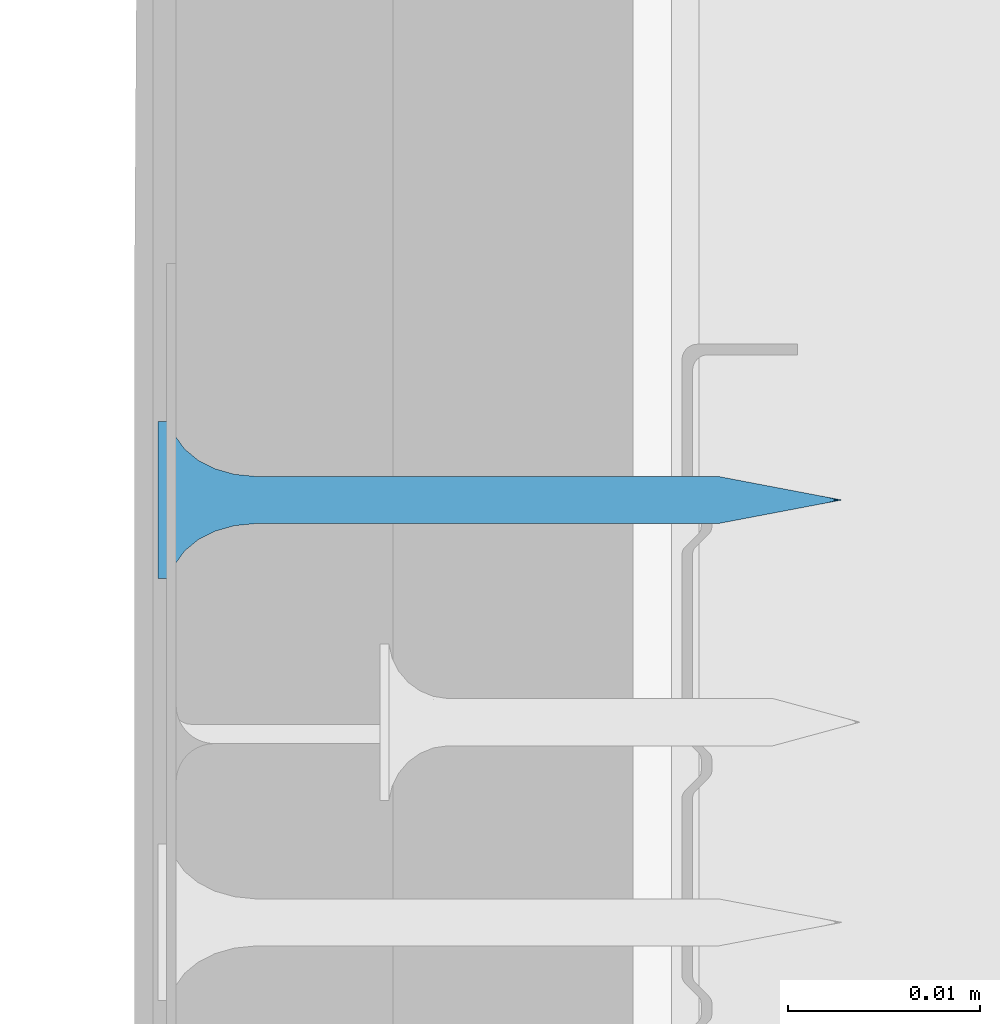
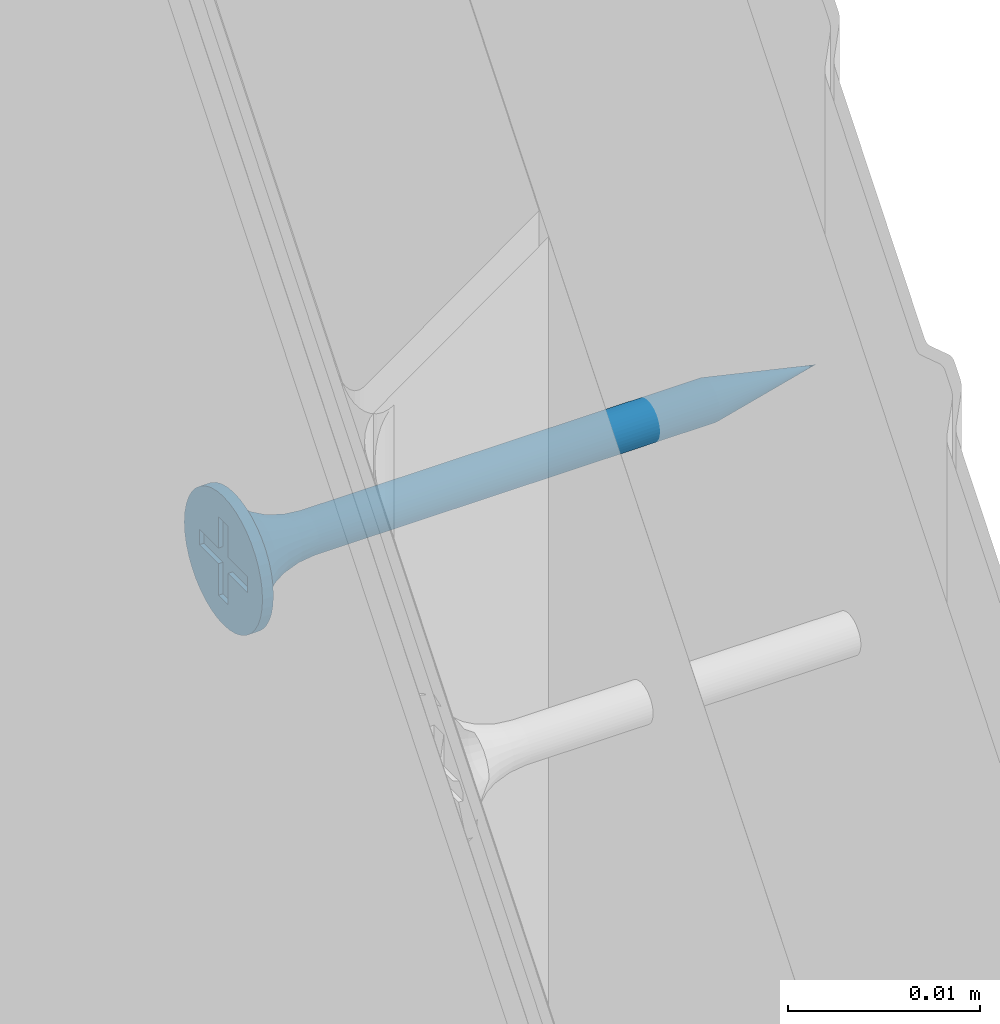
# One storey, part 74 of 92: 1 wall.
"""IFC2X3 building model written with IfcOpenShell, lengths in millimetres."""

from ifc_helpers import new_model, si_unit, frame, origin_with_axes, place, context, subcontext, project, spatial, faceted_brep, material, type_object, element, save


model = new_model("IFC2X3")

# Units and contexts
model_context = context("Model", 3, world=origin_with_axes())
body_context = subcontext(model_context, "Body", "Model", "MODEL_VIEW")
ifc_project = project(units=[si_unit("LENGTHUNIT", "METRE", prefix="MILLI"), si_unit("AREAUNIT", "SQUARE_METRE"), si_unit("VOLUMEUNIT", "CUBIC_METRE")], contexts=[model_context])

# Site, building, storey
site_placement = place(None, origin_with_axes())
site = spatial("IfcSite", under=ifc_project, at=site_placement, Name="Default Site", CompositionType="ELEMENT")
building_placement = place(site_placement, origin_with_axes())
building = spatial("IfcBuilding", under=site, at=building_placement, Name="Default Building", CompositionType="ELEMENT")
storey_placement = place(building_placement, origin_with_axes())
storey = spatial("IfcBuildingStorey", under=building, at=storey_placement, Name="Default Building Storey", CompositionType="ELEMENT", Elevation=0.0)

# Wall
ifc_material = material(Name="Undefined2")
wall_type = type_object("IfcWallType", Name="Wkręt RIGIPS TN 35#35", PredefinedType="NOTDEFINED")
wall_placement = place(storey_placement, frame((4833.513128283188, 1215.4430310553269, 636.1937980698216), z_axis=(0.0, 0.0, 1.0), x_axis=(6.938893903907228e-17, -1.0, 0.0)))
element("IfcWall", 1, at=wall_placement, inside=storey, type_object=wall_type, material=ifc_material, Name="Wkręt RIGIPS TN 35", context=body_context, shape_type="Brep", body=[
    faceted_brep([(-141.48753293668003, -4832.598052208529, 555.1619773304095), (-141.48753293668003, -4833.259714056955, 555.1619773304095), (-141.5377465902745, -4833.259714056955, 555.8000000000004), (-141.5377465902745, -4832.598052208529, 555.8000000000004), (-141.33812900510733, -4832.598052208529, 554.539664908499), (-141.33812900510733, -4833.259714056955, 554.539664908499), (-141.09321328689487, -4832.598052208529, 553.9483861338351), (-141.09321328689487, -4833.259714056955, 553.9483861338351), (-140.75881656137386, -4832.598052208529, 553.4027002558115), (-140.75881656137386, -4833.259714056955, 553.4027002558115), (-140.34317265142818, -4833.259714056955, 552.9160436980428), (-140.45417279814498, -4832.598052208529, 553.0314906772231), (-139.8565160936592, -4833.259714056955, 552.5003997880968), (-140.1080097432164, -4832.598052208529, 552.6986613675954), (-139.72512626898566, -4832.598052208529, 552.4088260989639), (-139.31083021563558, -4833.259714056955, 552.1660030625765), (-139.31083021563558, -4832.598052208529, 552.1660030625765), (-138.71955144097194, -4833.259714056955, 551.9210873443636), (-138.87086516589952, -4832.598052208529, 551.9735585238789), (-138.41133029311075, -4832.598052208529, 551.8341602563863), (-138.0972390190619, -4833.259714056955, 551.7716834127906), (-137.9385961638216, -4832.598052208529, 551.74974052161), (-137.45921634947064, -4833.259714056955, 551.7214697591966), (-137.45921634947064, -4832.598052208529, 551.7214697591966), (-136.82119367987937, -4832.598052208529, 551.7716834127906), (-136.82119367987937, -4833.259714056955, 551.7716834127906), (-136.19888125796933, -4832.598052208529, 551.9210873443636), (-136.19888125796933, -4833.259714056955, 551.9210873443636), (-135.6076024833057, -4832.598052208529, 552.1660030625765), (-135.6076024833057, -4833.259714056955, 552.1660030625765), (-135.06191660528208, -4832.598052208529, 552.5003997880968), (-135.06191660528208, -4833.259714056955, 552.5003997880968), (-134.57526004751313, -4832.598052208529, 552.9160436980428), (-134.57526004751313, -4833.259714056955, 552.9160436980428), (-134.1596161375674, -4832.598052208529, 553.4027002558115), (-134.1596161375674, -4833.259714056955, 553.4027002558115), (-133.8252194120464, -4832.598052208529, 553.9483861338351), (-133.8252194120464, -4833.259714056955, 553.9483861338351), (-133.58030369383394, -4832.598052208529, 554.539664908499), (-133.58030369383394, -4833.259714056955, 554.539664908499), (-133.3806861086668, -4833.259714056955, 555.8000000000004), (-133.3806861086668, -4832.598052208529, 555.8000000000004), (-133.43089976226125, -4832.598052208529, 556.4380226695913), (-133.43089976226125, -4833.259714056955, 556.4380226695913), (-133.43089976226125, -4833.259714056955, 555.1619773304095), (-133.43089976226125, -4832.598052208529, 555.1619773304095), (-133.58030369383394, -4832.598052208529, 557.0603350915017), (-133.58030369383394, -4833.259714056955, 557.0603350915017), (-133.8252194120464, -4832.598052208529, 557.6516138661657), (-133.8252194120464, -4833.259714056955, 557.6516138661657), (-134.1596161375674, -4832.598052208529, 558.1972997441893), (-134.1596161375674, -4833.259714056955, 558.1972997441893), (-134.57526004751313, -4832.598052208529, 558.6839563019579), (-134.57526004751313, -4833.259714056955, 558.6839563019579), (-135.06191660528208, -4832.598052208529, 559.099600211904), (-135.06191660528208, -4833.259714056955, 559.099600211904), (-135.6076024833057, -4832.598052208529, 559.4339969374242), (-135.6076024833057, -4833.259714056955, 559.4339969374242), (-136.19888125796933, -4832.598052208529, 559.6789126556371), (-136.19888125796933, -4833.259714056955, 559.6789126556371), (-136.82119367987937, -4832.598052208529, 559.8283165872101), (-136.82119367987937, -4833.259714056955, 559.8283165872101), (-137.45921634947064, -4832.598052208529, 559.8785302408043), (-137.45921634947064, -4833.259714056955, 559.8785302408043), (-138.0972390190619, -4832.598052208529, 559.8283165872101), (-138.0972390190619, -4833.259714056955, 559.8283165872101), (-138.71955144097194, -4832.598052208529, 559.6789126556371), (-138.71955144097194, -4833.259714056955, 559.6789126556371), (-139.31083021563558, -4832.598052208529, 559.4339969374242), (-139.31083021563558, -4833.259714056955, 559.4339969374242), (-139.8565160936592, -4832.598052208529, 559.099600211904), (-139.8565160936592, -4833.259714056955, 559.099600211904), (-140.34317265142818, -4832.598052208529, 558.6839563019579), (-140.34317265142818, -4833.259714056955, 558.6839563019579), (-140.75881656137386, -4832.598052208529, 558.1972997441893), (-140.75881656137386, -4833.259714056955, 558.1972997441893), (-141.09321328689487, -4832.598052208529, 557.6516138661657), (-141.09321328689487, -4833.259714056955, 557.6516138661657), (-141.33812900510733, -4832.598052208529, 557.0603350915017), (-141.33812900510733, -4833.259714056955, 557.0603350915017), (-141.48753293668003, -4832.598052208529, 556.4380226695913), (-141.48753293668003, -4833.259714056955, 556.4380226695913), (-137.65172779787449, -4828.206294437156, 554.5845305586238), (-137.45921634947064, -4828.206294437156, 554.5693795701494), (-137.8060615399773, -4829.281368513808, 554.505556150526), (-137.45921634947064, -4829.281368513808, 554.459893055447), (-137.83949898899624, -4828.206294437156, 554.6296104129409), (-138.12926982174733, -4829.281368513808, 554.6394333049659), (-138.01790634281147, -4828.206294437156, 554.7035091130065), (-138.1825568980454, -4828.206294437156, 554.8044072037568), (-138.40681506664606, -4829.281368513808, 554.852401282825), (-138.3293964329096, -4828.206294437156, 554.9298199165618), (-138.45480914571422, -4828.206294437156, 555.0766594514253), (-138.6197830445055, -4829.281368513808, 555.1299465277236), (-138.5557072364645, -4828.206294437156, 555.2413100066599), (-138.753660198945, -4829.281368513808, 555.4531548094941), (-138.62960593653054, -4828.206294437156, 555.4197173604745), (-138.67468579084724, -4828.206294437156, 555.6074885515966), (-138.79932329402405, -4829.281368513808, 555.7999999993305), (-138.68983677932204, -4828.206294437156, 555.8000000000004), (-138.67468579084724, -4828.206294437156, 555.9925114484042), (-138.753660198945, -4829.281368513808, 556.1468451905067), (-138.62960593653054, -4828.206294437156, 556.1802826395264), (-138.6197830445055, -4829.281368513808, 556.4700534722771), (-138.5557072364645, -4828.206294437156, 556.3586899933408), (-138.45480914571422, -4828.206294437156, 556.5233405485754), (-138.40681506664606, -4829.281368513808, 556.7475987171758), (-138.3293964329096, -4828.206294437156, 556.6701800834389), (-138.1825568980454, -4828.206294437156, 556.7955927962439), (-138.12926982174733, -4829.281368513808, 556.9605666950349), (-138.01790634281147, -4828.206294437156, 556.8964908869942), (-137.8060615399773, -4829.281368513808, 557.0944438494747), (-137.83949898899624, -4828.206294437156, 556.9703895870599), (-137.65172779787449, -4828.206294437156, 557.0154694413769), (-137.45921634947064, -4829.281368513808, 557.1401069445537), (-137.45921634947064, -4828.206294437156, 557.0306204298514), (-137.26670490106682, -4828.206294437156, 557.0154694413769), (-137.11237115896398, -4829.281368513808, 557.0944438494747), (-137.07893370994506, -4828.206294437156, 556.9703895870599), (-136.78916287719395, -4829.281368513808, 556.9605666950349), (-136.9005263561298, -4828.206294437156, 556.8964908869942), (-136.7358758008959, -4828.206294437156, 556.7955927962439), (-136.5116176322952, -4829.281368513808, 556.7475987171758), (-136.58903626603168, -4828.206294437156, 556.6701800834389), (-136.46362355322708, -4828.206294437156, 556.5233405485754), (-136.2986496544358, -4829.281368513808, 556.4700534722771), (-136.36272546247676, -4828.206294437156, 556.3586899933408), (-136.16477249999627, -4829.281368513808, 556.1468451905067), (-136.28882676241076, -4828.206294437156, 556.1802826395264), (-136.24374690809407, -4828.206294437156, 555.9925114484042), (-136.11910940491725, -4829.281368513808, 555.7999999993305), (-136.22859591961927, -4828.206294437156, 555.8000000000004), (-136.24374690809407, -4828.206294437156, 555.6074885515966), (-136.16477249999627, -4829.281368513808, 555.4531548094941), (-136.28882676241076, -4828.206294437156, 555.4197173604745), (-136.2986496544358, -4829.281368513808, 555.1299465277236), (-136.36272546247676, -4828.206294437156, 555.2413100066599), (-136.46362355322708, -4828.206294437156, 555.0766594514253), (-136.5116176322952, -4829.281368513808, 554.852401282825), (-136.58903626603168, -4828.206294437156, 554.9298199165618), (-136.7358758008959, -4828.206294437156, 554.8044072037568), (-136.78916287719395, -4829.281368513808, 554.6394333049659), (-136.9005263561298, -4828.206294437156, 554.7035091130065), (-137.11237115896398, -4829.281368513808, 554.505556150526), (-137.07893370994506, -4828.206294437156, 554.6296104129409), (-137.26670490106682, -4828.206294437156, 554.5845305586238), (-137.45921634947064, -4830.288222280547, 554.1737111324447), (-137.88013087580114, -4830.288222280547, 554.2291255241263), (-138.2723607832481, -4830.288222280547, 554.391592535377), (-138.60917621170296, -4830.288222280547, 554.6500401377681), (-138.8676238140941, -4830.288222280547, 554.9868555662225), (-139.03009082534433, -4830.288222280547, 555.3790854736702), (-139.08550521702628, -4830.288222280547, 555.7999999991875), (-139.03009082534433, -4830.288222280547, 556.2209145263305), (-138.8676238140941, -4830.288222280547, 556.6131444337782), (-138.60917621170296, -4830.288222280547, 556.9499598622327), (-138.2723607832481, -4830.288222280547, 557.2084074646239), (-137.88013087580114, -4830.288222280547, 557.3708744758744), (-137.45921634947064, -4830.288222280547, 557.426288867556), (-137.03830182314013, -4830.288222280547, 557.3708744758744), (-136.64607191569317, -4830.288222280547, 557.2084074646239), (-136.30925648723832, -4830.288222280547, 556.9499598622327), (-136.05080888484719, -4830.288222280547, 556.6131444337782), (-135.88834187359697, -4830.288222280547, 556.2209145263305), (-135.832927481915, -4830.288222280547, 555.7999999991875), (-135.88834187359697, -4830.288222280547, 555.3790854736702), (-136.05080888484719, -4830.288222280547, 554.9868555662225), (-136.30925648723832, -4830.288222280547, 554.6500401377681), (-136.64607191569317, -4830.288222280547, 554.391592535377), (-137.03830182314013, -4830.288222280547, 554.2291255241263), (-137.45921634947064, -4831.168773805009, 553.7273430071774), (-137.99565943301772, -4831.168773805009, 553.7979670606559), (-138.49554484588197, -4831.168773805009, 554.0050264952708), (-138.92480608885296, -4831.168773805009, 554.334410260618), (-139.25418985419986, -4831.168773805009, 554.7636715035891), (-139.46124928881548, -4831.168773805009, 555.2635569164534), (-139.53187334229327, -4831.168773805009, 555.799999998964), (-139.46124928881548, -4831.168773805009, 556.3364430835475), (-139.25418985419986, -4831.168773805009, 556.8363284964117), (-138.92480608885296, -4831.168773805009, 557.2655897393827), (-138.49554484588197, -4831.168773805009, 557.59497350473), (-137.99565943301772, -4831.168773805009, 557.8020329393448), (-137.45921634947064, -4831.168773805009, 557.8726569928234), (-136.92277326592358, -4831.168773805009, 557.8020329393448), (-136.42288785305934, -4831.168773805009, 557.59497350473), (-135.9936266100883, -4831.168773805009, 557.2655897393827), (-135.6642428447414, -4831.168773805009, 556.8363284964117), (-135.45718341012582, -4831.168773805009, 556.3364430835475), (-135.386559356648, -4831.168773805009, 555.799999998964), (-135.45718341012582, -4831.168773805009, 555.2635569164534), (-135.6642428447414, -4831.168773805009, 554.7636715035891), (-135.9936266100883, -4831.168773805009, 554.334410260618), (-136.42288785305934, -4831.168773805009, 554.0050264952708), (-136.92277326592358, -4831.168773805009, 553.7979670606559), (-137.45921634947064, -4831.872222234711, 553.1465392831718), (-138.14598252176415, -4831.872222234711, 553.2369539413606), (-138.78594670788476, -4831.872222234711, 553.5020355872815), (-139.33549641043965, -4831.872222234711, 553.923719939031), (-139.75718076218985, -4831.872222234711, 554.473269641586), (-140.02226240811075, -4831.872222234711, 555.1132338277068), (-140.11267706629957, -4831.872222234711, 555.7999999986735), (-140.02226240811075, -4831.872222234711, 556.4867661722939), (-139.75718076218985, -4831.872222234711, 557.1267303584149), (-139.33549641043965, -4831.872222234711, 557.6762800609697), (-138.78594670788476, -4831.872222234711, 558.0979644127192), (-138.14598252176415, -4831.872222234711, 558.3630460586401), (-137.45921634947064, -4831.872222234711, 558.453460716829), (-136.77245017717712, -4831.872222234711, 558.3630460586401), (-136.13248599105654, -4831.872222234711, 558.0979644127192), (-135.58293628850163, -4831.872222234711, 557.6762800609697), (-135.16125193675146, -4831.872222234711, 557.1267303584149), (-134.89617029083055, -4831.872222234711, 556.4867661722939), (-134.8057556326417, -4831.872222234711, 555.7999999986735), (-134.89617029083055, -4831.872222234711, 555.1132338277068), (-135.16125193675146, -4831.872222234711, 554.473269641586), (-135.58293628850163, -4831.872222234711, 553.923719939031), (-136.13248599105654, -4831.872222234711, 553.5020355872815), (-136.77245017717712, -4831.872222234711, 553.2369539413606), (-137.45921634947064, -4832.357990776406, 552.4648055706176), (-138.3224281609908, -4832.357990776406, 552.5784495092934), (-139.12681356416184, -4832.357990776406, 552.9116369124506), (-139.8175549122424, -4832.357990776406, 553.4416614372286), (-140.34757943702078, -4832.357990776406, 554.1324027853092), (-140.680766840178, -4832.357990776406, 554.9367881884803), (-140.79441077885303, -4832.357990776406, 555.7999999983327), (-140.680766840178, -4832.357990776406, 556.6632118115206), (-140.34757943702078, -4832.357990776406, 557.4675972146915), (-139.8175549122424, -4832.357990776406, 558.1583385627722), (-139.12681356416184, -4832.357990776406, 558.6883630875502), (-138.3224281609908, -4832.357990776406, 559.0215504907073), (-137.45921634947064, -4832.357990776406, 559.1351944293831), (-136.5960045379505, -4832.357990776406, 559.0215504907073), (-135.79161913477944, -4832.357990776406, 558.6883630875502), (-135.10087778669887, -4832.357990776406, 558.1583385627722), (-134.5708532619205, -4832.357990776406, 557.4675972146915), (-134.23766585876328, -4832.357990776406, 556.6632118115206), (-134.12402192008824, -4832.357990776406, 555.7999999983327), (-134.23766585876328, -4832.357990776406, 554.9367881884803), (-134.5708532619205, -4832.357990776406, 554.1324027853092), (-135.10087778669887, -4832.357990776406, 553.4416614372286), (-135.79161913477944, -4832.357990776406, 552.9116369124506), (-136.5960045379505, -4832.357990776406, 552.5784495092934), (-138.67468579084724, -4804.0937578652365, 555.6074885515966), (-138.68983677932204, -4804.0937578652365, 555.8000000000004), (-138.62960593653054, -4804.0937578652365, 555.4197173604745), (-138.5557072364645, -4804.0937578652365, 555.2413100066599), (-138.45480914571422, -4804.0937578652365, 555.0766594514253), (-138.3293964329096, -4804.0937578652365, 554.9298199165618), (-138.1825568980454, -4804.0937578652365, 554.8044072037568), (-138.01790634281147, -4804.0937578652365, 554.7035091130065), (-137.83949898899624, -4804.0937578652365, 554.6296104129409), (-137.65172779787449, -4804.0937578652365, 554.5845305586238), (-137.45921634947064, -4804.0937578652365, 554.5693795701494), (-137.26670490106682, -4804.0937578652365, 554.5845305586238), (-137.07893370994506, -4804.0937578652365, 554.6296104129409), (-136.9005263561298, -4804.0937578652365, 554.7035091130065), (-136.7358758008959, -4804.0937578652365, 554.8044072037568), (-136.58903626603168, -4804.0937578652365, 554.9298199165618), (-136.46362355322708, -4804.0937578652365, 555.0766594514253), (-136.36272546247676, -4804.0937578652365, 555.2413100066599), (-136.28882676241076, -4804.0937578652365, 555.4197173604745), (-136.22859591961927, -4804.0937578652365, 555.8000000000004), (-136.24374690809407, -4804.0937578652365, 555.9925114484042), (-136.24374690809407, -4804.0937578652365, 555.6074885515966), (-136.28882676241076, -4804.0937578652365, 556.1802826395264), (-136.36272546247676, -4804.0937578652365, 556.3586899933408), (-136.46362355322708, -4804.0937578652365, 556.5233405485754), (-136.58903626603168, -4804.0937578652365, 556.6701800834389), (-136.7358758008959, -4804.0937578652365, 556.7955927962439), (-136.9005263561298, -4804.0937578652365, 556.8964908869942), (-137.07893370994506, -4804.0937578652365, 556.9703895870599), (-137.26670490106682, -4804.0937578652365, 557.0154694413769), (-137.45921634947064, -4804.0937578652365, 557.0306204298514), (-137.65172779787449, -4804.0937578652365, 557.0154694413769), (-137.83949898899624, -4804.0937578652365, 556.9703895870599), (-138.01790634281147, -4804.0937578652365, 556.8964908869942), (-138.1825568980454, -4804.0937578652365, 556.7955927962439), (-138.3293964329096, -4804.0937578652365, 556.6701800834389), (-138.45480914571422, -4804.0937578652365, 556.5233405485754), (-138.5557072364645, -4804.0937578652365, 556.3586899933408), (-138.62960593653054, -4804.0937578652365, 556.1802826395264), (-138.67468579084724, -4804.0937578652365, 555.9925114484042), (-137.45921634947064, -4797.627062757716, 555.8000000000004), (-139.95921629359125, -4833.259714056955, 555.2999999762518), (-139.95921629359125, -4833.259714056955, 556.300000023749), (-137.95921637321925, -4833.259714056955, 556.300000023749), (-137.95921637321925, -4833.259714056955, 558.2999999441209), (-136.95921632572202, -4833.259714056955, 558.2999999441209), (-136.95921632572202, -4833.259714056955, 556.300000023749), (-134.95921640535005, -4833.259714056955, 556.300000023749), (-134.95921640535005, -4833.259714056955, 555.2999999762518), (-136.95921632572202, -4833.259714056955, 555.2999999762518), (-136.95921632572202, -4833.259714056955, 553.3000000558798), (-137.95921637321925, -4833.259714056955, 553.3000000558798), (-137.95921637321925, -4833.259714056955, 555.2999999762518), (-136.95921632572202, -4832.988378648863, 558.2999999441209), (-137.95921637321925, -4832.988378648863, 558.2999999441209), (-137.95921637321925, -4832.988378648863, 556.300000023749), (-139.95921629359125, -4832.988378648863, 556.300000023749), (-139.95921629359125, -4832.988378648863, 555.2999999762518), (-137.95921637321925, -4832.988378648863, 555.2999999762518), (-137.95921637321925, -4832.988378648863, 553.3000000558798), (-136.95921632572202, -4832.988378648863, 553.3000000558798), (-136.95921632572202, -4832.988378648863, 555.2999999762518), (-134.95921640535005, -4832.988378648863, 555.2999999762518), (-134.95921640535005, -4832.988378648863, 556.300000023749), (-136.95921632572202, -4832.988378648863, 556.300000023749)], [[[0, 1, 2, 3]], [[1, 0, 4, 5]], [[5, 4, 6, 7]], [[8, 9, 7, 6]], [[8, 10, 9]], [[8, 11, 10]], [[12, 11, 13]], [[12, 10, 11]], [[13, 14, 12]], [[14, 15, 12]], [[14, 16, 15]], [[17, 16, 18]], [[17, 15, 16]], [[18, 19, 17]], [[20, 19, 21]], [[20, 17, 19]], [[21, 22, 20]], [[21, 23, 22]], [[24, 25, 22, 23]], [[25, 24, 26, 27]], [[27, 26, 28, 29]], [[30, 31, 29, 28]], [[31, 30, 32, 33]], [[34, 35, 33, 32]], [[35, 34, 36, 37]], [[37, 36, 38, 39]], [[40, 41, 42, 43]], [[44, 45, 41, 40]], [[45, 44, 39, 38]], [[43, 42, 46, 47]], [[47, 46, 48, 49]], [[50, 51, 49, 48]], [[51, 50, 52, 53]], [[54, 55, 53, 52]], [[55, 54, 56, 57]], [[57, 56, 58, 59]], [[60, 61, 59, 58]], [[61, 60, 62, 63]], [[64, 65, 63, 62]], [[65, 64, 66, 67]], [[67, 66, 68, 69]], [[70, 71, 69, 68]], [[71, 70, 72, 73]], [[74, 75, 73, 72]], [[75, 74, 76, 77]], [[77, 76, 78, 79]], [[80, 81, 79, 78]], [[81, 80, 3, 2]], [[82, 83, 84]], [[83, 85, 84]], [[84, 86, 82]], [[84, 87, 88, 86]], [[89, 88, 87]], [[87, 90, 89]], [[90, 91, 89]], [[92, 91, 93]], [[91, 90, 93]], [[93, 94, 92]], [[93, 95, 96, 94]], [[97, 96, 95]], [[95, 98, 97]], [[98, 99, 97]], [[100, 99, 101]], [[99, 98, 101]], [[101, 102, 100]], [[101, 103, 104, 102]], [[105, 104, 103]], [[103, 106, 105]], [[106, 107, 105]], [[108, 107, 109]], [[107, 106, 109]], [[109, 110, 108]], [[109, 111, 112, 110]], [[113, 112, 111]], [[111, 114, 113]], [[114, 115, 113]], [[116, 115, 117]], [[115, 114, 117]], [[117, 118, 116]], [[117, 119, 120, 118]], [[121, 120, 119]], [[119, 122, 121]], [[122, 123, 121]], [[124, 123, 125]], [[123, 122, 125]], [[125, 126, 124]], [[125, 127, 128, 126]], [[129, 128, 127]], [[127, 130, 129]], [[130, 131, 129]], [[132, 131, 133]], [[131, 130, 133]], [[133, 134, 132]], [[133, 135, 136, 134]], [[137, 136, 135]], [[135, 138, 137]], [[138, 139, 137]], [[140, 139, 141]], [[139, 138, 141]], [[141, 142, 140]], [[141, 143, 144, 142]], [[145, 144, 143]], [[143, 85, 145]], [[85, 83, 145]], [[146, 147, 84, 85]], [[84, 147, 148, 87]], [[87, 148, 149, 90]], [[90, 149, 150, 93]], [[93, 150, 151, 95]], [[95, 151, 152, 98]], [[98, 152, 153, 101]], [[101, 153, 154, 103]], [[103, 154, 155, 106]], [[106, 155, 156, 109]], [[109, 156, 157, 111]], [[111, 157, 158, 114]], [[114, 158, 159, 117]], [[117, 159, 160, 119]], [[119, 160, 161, 122]], [[122, 161, 162, 125]], [[125, 162, 163, 127]], [[127, 163, 164, 130]], [[130, 164, 165, 133]], [[133, 165, 166, 135]], [[135, 166, 167, 138]], [[138, 167, 168, 141]], [[141, 168, 169, 143]], [[143, 169, 146, 85]], [[170, 171, 147, 146]], [[147, 171, 172, 148]], [[148, 172, 173, 149]], [[149, 173, 174, 150]], [[150, 174, 175, 151]], [[151, 175, 176, 152]], [[152, 176, 177, 153]], [[153, 177, 178, 154]], [[154, 178, 179, 155]], [[155, 179, 180, 156]], [[156, 180, 181, 157]], [[157, 181, 182, 158]], [[158, 182, 183, 159]], [[159, 183, 184, 160]], [[160, 184, 185, 161]], [[161, 185, 186, 162]], [[162, 186, 187, 163]], [[163, 187, 188, 164]], [[164, 188, 189, 165]], [[165, 189, 190, 166]], [[166, 190, 191, 167]], [[167, 191, 192, 168]], [[168, 192, 193, 169]], [[169, 193, 170, 146]], [[194, 195, 171, 170]], [[171, 195, 196, 172]], [[172, 196, 197, 173]], [[173, 197, 198, 174]], [[174, 198, 199, 175]], [[175, 199, 200, 176]], [[176, 200, 201, 177]], [[177, 201, 202, 178]], [[178, 202, 203, 179]], [[179, 203, 204, 180]], [[180, 204, 205, 181]], [[181, 205, 206, 182]], [[182, 206, 207, 183]], [[183, 207, 208, 184]], [[184, 208, 209, 185]], [[185, 209, 210, 186]], [[186, 210, 211, 187]], [[187, 211, 212, 188]], [[188, 212, 213, 189]], [[189, 213, 214, 190]], [[190, 214, 215, 191]], [[191, 215, 216, 192]], [[192, 216, 217, 193]], [[193, 217, 194, 170]], [[21, 19, 218]], [[19, 219, 218]], [[218, 23, 21]], [[218, 219, 195, 194]], [[18, 16, 219]], [[16, 220, 219]], [[219, 19, 18]], [[195, 219, 220, 196]], [[13, 11, 221]], [[14, 13, 220]], [[13, 221, 220]], [[220, 16, 14]], [[196, 220, 221, 197]], [[8, 6, 222]], [[222, 221, 8]], [[221, 11, 8]], [[197, 221, 222, 198]], [[4, 223, 222, 6]], [[198, 222, 223, 199]], [[0, 3, 223]], [[3, 224, 223]], [[223, 4, 0]], [[199, 223, 224, 200]], [[80, 78, 225]], [[225, 224, 80]], [[224, 3, 80]], [[200, 224, 225, 201]], [[78, 76, 226, 225]], [[201, 225, 226, 202]], [[74, 72, 226]], [[72, 227, 226]], [[226, 76, 74]], [[202, 226, 227, 203]], [[70, 68, 228]], [[228, 227, 70]], [[227, 72, 70]], [[203, 227, 228, 204]], [[68, 66, 229, 228]], [[204, 228, 229, 205]], [[64, 62, 229]], [[62, 230, 229]], [[229, 66, 64]], [[205, 229, 230, 206]], [[60, 58, 231]], [[231, 230, 60]], [[230, 62, 60]], [[206, 230, 231, 207]], [[58, 56, 232, 231]], [[207, 231, 232, 208]], [[54, 52, 232]], [[52, 233, 232]], [[232, 56, 54]], [[208, 232, 233, 209]], [[50, 48, 234]], [[234, 233, 50]], [[233, 52, 50]], [[209, 233, 234, 210]], [[48, 46, 235, 234]], [[210, 234, 235, 211]], [[42, 41, 235]], [[41, 236, 235]], [[235, 46, 42]], [[211, 235, 236, 212]], [[45, 38, 237]], [[237, 236, 45]], [[236, 41, 45]], [[212, 236, 237, 213]], [[36, 238, 237, 38]], [[213, 237, 238, 214]], [[34, 32, 238]], [[32, 239, 238]], [[238, 36, 34]], [[214, 238, 239, 215]], [[30, 28, 240]], [[240, 239, 30]], [[239, 32, 30]], [[215, 239, 240, 216]], [[26, 241, 240, 28]], [[216, 240, 241, 217]], [[217, 241, 218, 194]], [[24, 23, 241]], [[23, 218, 241]], [[241, 26, 24]], [[242, 97, 99, 243]], [[97, 242, 244, 96]], [[96, 244, 245, 94]], [[246, 92, 94, 245]], [[92, 246, 247, 91]], [[248, 89, 91, 247]], [[89, 248, 249, 88]], [[88, 249, 250, 86]], [[251, 82, 86, 250]], [[82, 251, 252, 83]], [[253, 145, 83, 252]], [[145, 253, 254, 144]], [[144, 254, 255, 142]], [[256, 140, 142, 255]], [[140, 256, 257, 139]], [[258, 137, 139, 257]], [[137, 258, 259, 136]], [[136, 259, 260, 134]], [[131, 261, 262, 129]], [[132, 263, 261, 131]], [[263, 132, 134, 260]], [[129, 262, 264, 128]], [[128, 264, 265, 126]], [[266, 124, 126, 265]], [[124, 266, 267, 123]], [[268, 121, 123, 267]], [[121, 268, 269, 120]], [[120, 269, 270, 118]], [[271, 116, 118, 270]], [[116, 271, 272, 115]], [[273, 113, 115, 272]], [[113, 273, 274, 112]], [[112, 274, 275, 110]], [[276, 108, 110, 275]], [[108, 276, 277, 107]], [[278, 105, 107, 277]], [[105, 278, 279, 104]], [[104, 279, 280, 102]], [[281, 100, 102, 280]], [[100, 281, 243, 99]], [[282, 244, 242]], [[242, 243, 282]], [[282, 245, 244]], [[282, 247, 246]], [[246, 245, 282]], [[282, 249, 248]], [[248, 247, 282]], [[282, 250, 249]], [[282, 252, 251]], [[251, 250, 282]], [[282, 254, 253]], [[253, 252, 282]], [[282, 255, 254]], [[282, 257, 256]], [[256, 255, 282]], [[282, 259, 258]], [[258, 257, 282]], [[282, 260, 259]], [[282, 261, 263]], [[263, 260, 282]], [[282, 264, 262]], [[262, 261, 282]], [[282, 265, 264]], [[282, 267, 266]], [[266, 265, 282]], [[282, 269, 268]], [[268, 267, 282]], [[282, 270, 269]], [[282, 272, 271]], [[271, 270, 282]], [[282, 274, 273]], [[273, 272, 282]], [[282, 275, 274]], [[282, 277, 276]], [[276, 275, 282]], [[282, 279, 278]], [[278, 277, 282]], [[282, 280, 279]], [[282, 243, 281]], [[281, 280, 282]], [[75, 77, 79, 81, 2, 1, 5, 7, 9, 10, 12, 15, 17, 20, 22, 25, 27, 29, 31, 33, 35, 37, 39, 44, 40, 43, 47, 49, 51, 53, 55, 57, 59, 61, 63, 65, 67, 69, 71, 73], [283, 284, 285, 286, 287, 288, 289, 290, 291, 292, 293, 294]], [[295, 296, 297, 298, 299, 300, 301, 302, 303, 304, 305, 306]], [[303, 291, 290, 304]], [[304, 290, 289, 305]], [[305, 289, 288, 306]], [[306, 288, 287, 295]], [[295, 287, 286, 296]], [[296, 286, 285, 297]], [[297, 285, 284, 298]], [[298, 284, 283, 299]], [[299, 283, 294, 300]], [[300, 294, 293, 301]], [[301, 293, 292, 302]], [[302, 292, 291, 303]]]),
])

save(model, "model.ifc")
